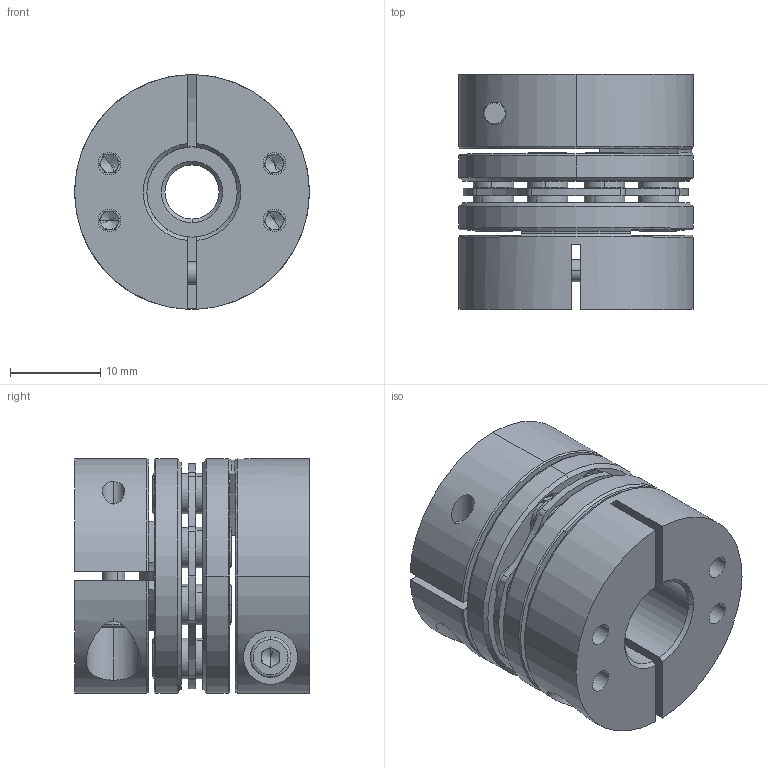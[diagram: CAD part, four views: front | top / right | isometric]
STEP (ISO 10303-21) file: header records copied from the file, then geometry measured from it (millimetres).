
FILE_DESCRIPTION (( 'STEP AP203' ), '1' );
FILE_NAME ('LDG-D26-6-10.STEP', '2021-10-28T03:25:32', ( '' ), ( '' ), 'SwSTEP 2.0', 'SolidWorks 2018', '' );
FILE_SCHEMA (( 'CONFIG_CONTROL_DESIGN' ));
Length unit declared in the file: millimetre
Products named in the file (2): LDG-D26-6-10; 錨璃2^LDG-D26蚾饜芞1
Assembly tree (1 placements, depth 2):
  LDG-D26-6-10
    錨璃2^LDG-D26蚾饜芞1
Bounding box: 26 x 26 x 26 mm (x, y, z)
Volume: 10060.9 mm3; surface area: 9023.6 mm2
Topology: 1 solids, 21 shells, 765 faces, 1872 edges, 1159 vertices
Faces by surface type: cylinder 301, plane 244, cone 200, torus 20
Entity records: 23057 total; most frequent: DIRECTION 4281, CARTESIAN_POINT 4164, ORIENTED_EDGE 3688, EDGE_CURVE 1844, AXIS2_PLACEMENT_3D 1740, VERTEX_POINT 1159, CIRCLE 971, EDGE_LOOP 909
